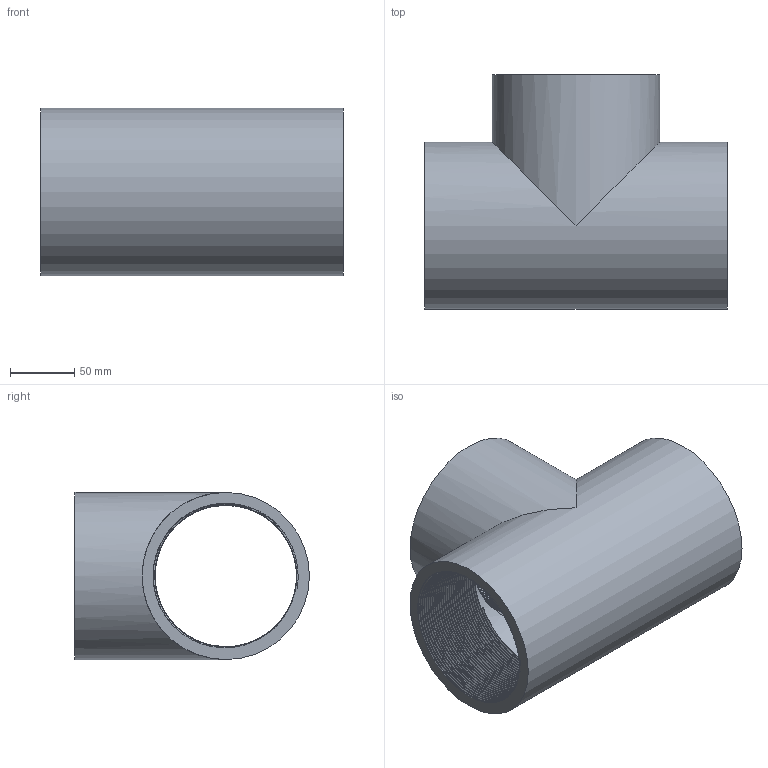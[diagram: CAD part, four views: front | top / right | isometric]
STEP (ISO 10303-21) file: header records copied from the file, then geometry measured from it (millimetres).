
FILE_DESCRIPTION(/* description */ ('(descrizione)'),/* implementation_level */ '2;1');
FILE_NAME(/* name */ 'C:\Users\POLYPIPE\Desktop\DATASET INVENTOR\LIBRERIA EFFAST\RACCORDI 3DxWEB\RER\3D_RERTIE\3D_RERTIE110L.stp',/* time_stamp */ '2018-01-19T17:21:34+01:00',/* author */ ('POLYPIPE'),/* organization */ ('Polypipe Italia s.r.l.'),/* preprocessor_version */ 'ST-DEVELOPER v16.1',/* originating_system */ 'Autodesk Inventor 2016',/* authorisation */ '');
FILE_SCHEMA (('CONFIG_CONTROL_DESIGN'));
Length unit declared in the file: millimetre
Products named in the file (1): 3D_RERTIE
Bounding box: 235 x 182.5 x 130 mm (x, y, z)
Volume: 990261.7 mm3; surface area: 265578 mm2
Topology: 1 solids, 1 shells, 25 faces, 70 edges, 46 vertices
Faces by surface type: bspline 15, plane 6, cylinder 4
Full cylindrical faces by diameter (mm): 110.072 x2, 130 x2
Entity records: 30689 total; most frequent: CARTESIAN_POINT 30172, ORIENTED_EDGE 116, DIRECTION 63, EDGE_CURVE 58, VERTEX_POINT 40, EDGE_LOOP 34, B_SPLINE_CURVE_WITH_KNOTS 33, AXIS2_PLACEMENT_3D 27
